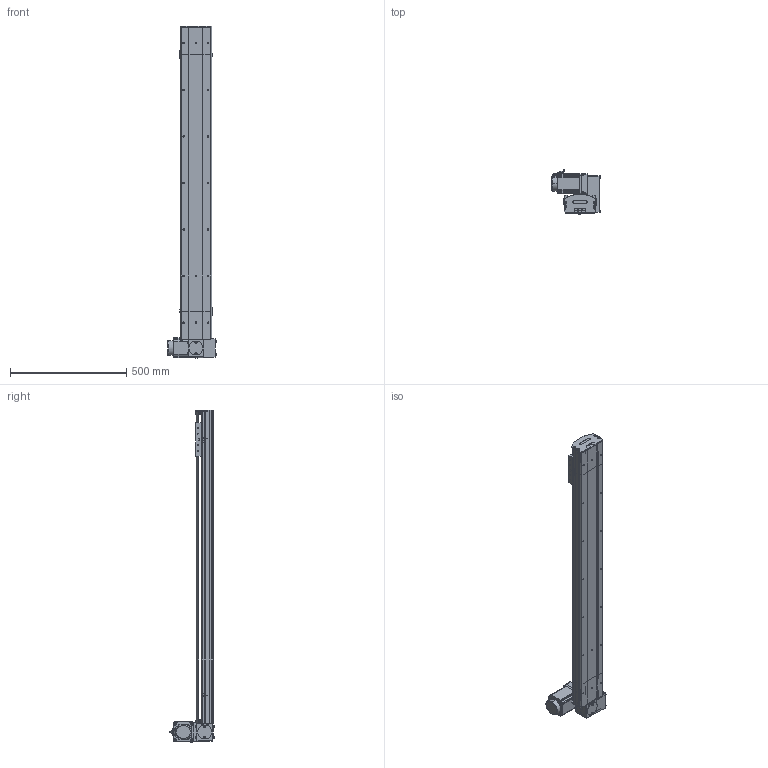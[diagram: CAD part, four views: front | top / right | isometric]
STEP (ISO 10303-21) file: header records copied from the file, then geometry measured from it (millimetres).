
FILE_DESCRIPTION (( 'STEP AP214' ), '1' );
FILE_NAME ('D14 TBH LT S1100.STEP', '2010-06-29T13:53:25', ( 'Conseil Régional Haute-Normandie' ), ( 'Conseil Régional Haute-Normandie' ), 'SwSTEP 2.0', 'SolidWorks 2010', '' );
FILE_SCHEMA (( 'AUTOMOTIVE_DESIGN' ));
Length unit declared in the file: millimetre
Products named in the file (39): chariot D14B_Default; guide D14; vis M5 L12_Default; Chariot D14; D14 couroie L1100_Default; poulie tail_Default; D14 TBH LT S1100; vis M5 L16_Default; Tail D14B_Default; tete d''axe haut D14; plaque de  bout tail D14_Default; Rail + couroie D14 Course 1100 ; couvercle D14_Default; Arbre+rail tail D14; Couroie_Default; corpl tail D14_Default; couvercle D14 course L1100_Default; vis M5 L8 90°_Default; corpl 1100_Default; Moteur motionking 90BLDC100A-640; Cvis M5 L70_Default; Vis M5 L16-2_Default; codeur 90BLDC100-640; plaque de  bout head D14 LT_Default; corp head D14_Default; poulie head_Default; D14 TB H LT_Default; Cache_Default; avant 90BLDC100A-640; couroie 2_Default; renvoi LH_Default; Arbre+rail head D14; couvercle D14 head_Default; vis M5 L5_Default; Cache arbre_Default; Plaque racord D14_Default; Conecteur_Default; Conecteur2_Default; corps 90BLDC100A-640
Assembly tree (68 placements, depth 4):
  D14 TBH LT S1100
    chariot D14B_Default
      guide D14  x2
      vis M5 L12_Default  x4
      Chariot D14
    D14 TB H LT_Default
      Cvis M5 L70_Default  x4
      Cache arbre_Default
      couvercle D14 head_Default
      poulie head_Default
      vis M5 L12_Default  x12
      couroie 2_Default
      Cache_Default  x2
      corp head D14_Default
      Vis M5 L16-2_Default  x4
      Arbre+rail head D14
      Moteur motionking 90BLDC100A-640
        corps 90BLDC100A-640
        avant 90BLDC100A-640
        Conecteur2_Default
        Conecteur_Default
        codeur 90BLDC100-640
      Plaque racord D14_Default
      plaque de  bout head D14 LT_Default
      renvoi LH_Default
      vis M5 L5_Default  x2
    Tail D14B_Default
      vis M5 L12_Default  x4
      plaque de  bout tail D14_Default
      vis M5 L8 90°_Default  x2
      vis M5 L16_Default  x2
      Arbre+rail tail D14
      corpl tail D14_Default
      poulie tail_Default
      couvercle D14_Default
      Couroie_Default
      tete d''axe haut D14
    D14 couroie L1100_Default
      couvercle D14 course L1100_Default
      corpl 1100_Default
      Rail + couroie D14 Course 1100 
Bounding box: 207.2 x 189.1 x 1425.75 mm (x, y, z)
Volume: 6394213.4 mm3; surface area: 2081193.3 mm2
Topology: 92 solids, 92 shells, 2613 faces, 6395 edges, 4122 vertices
Faces by surface type: plane 1585, cylinder 715, bspline 136, torus 89, cone 84, sphere 4
Entity records: 78704 total; most frequent: CARTESIAN_POINT 23469, ORIENTED_EDGE 9650, DIRECTION 9404, EDGE_CURVE 4825, LINE 3262, VECTOR 3262, VERTEX_POINT 3172, AXIS2_PLACEMENT_3D 3071
